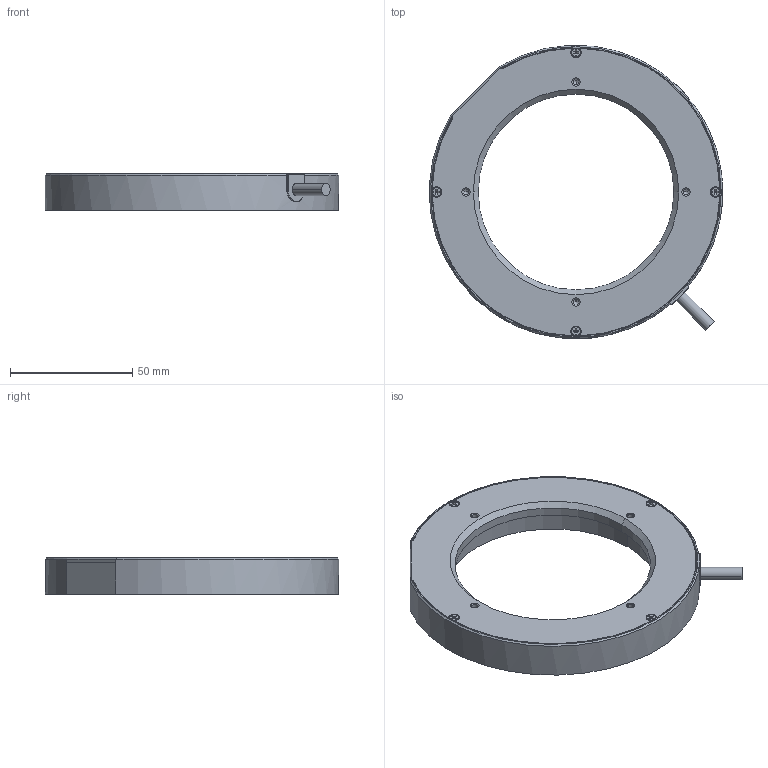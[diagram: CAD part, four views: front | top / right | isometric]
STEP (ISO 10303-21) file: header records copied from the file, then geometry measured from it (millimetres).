
FILE_DESCRIPTION((''),'2;1');
FILE_NAME('MV-LRDS-H-120-00-W','2022-09-02T15:54:29',('qiaoxuan5'),(''),'CREO PARAMETRIC BY PTC INC, 2020044','CREO PARAMETRIC BY PTC INC, 2020044','');
FILE_SCHEMA(('CONFIG_CONTROL_DESIGN'));
Length unit declared in the file: metre
Products named in the file (1): MV-LRDS-H-120-00-W
Bounding box: 119.92 x 119.92 x 15 mm (x, y, z)
Volume: 83877.1 mm3; surface area: 27439.7 mm2
Topology: 1 solids, 13 shells, 514 faces, 1243 edges, 743 vertices
Faces by surface type: plane 264, cylinder 146, cone 78, torus 20, sphere 6
Entity records: 14951 total; most frequent: CARTESIAN_POINT 2923, DIRECTION 2556, ORIENTED_EDGE 2454, EDGE_CURVE 1227, AXIS2_PLACEMENT_3D 921, VERTEX_POINT 743, VECTOR 714, LINE 714
